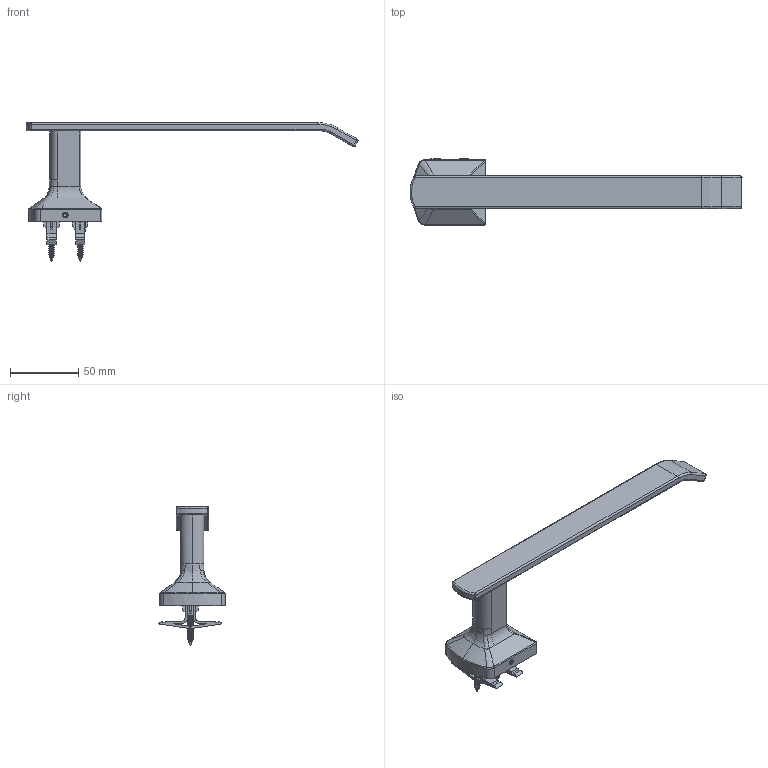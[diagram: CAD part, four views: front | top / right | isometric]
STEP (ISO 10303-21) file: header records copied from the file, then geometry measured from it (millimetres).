
FILE_DESCRIPTION (( 'STEP AP214' ), '1' );
FILE_NAME ('493TR.STEP', '2025-01-02T02:37:07', ( '' ), ( '' ), 'SwSTEP 2.0', 'SolidWorks 2023', '' );
FILE_SCHEMA (( 'AUTOMOTIVE_DESIGN' ));
Products named in the file (1): 493TR
Bounding box: 243.82 x 48.57 x 102.05 mm (x, y, z)
Surface area: 33627.6 mm2 (no closed solid volume)
Topology: 0 solids, 12 shells, 471 faces, 1441 edges, 962 vertices
Faces by surface type: cylinder 149, plane 138, bspline 135, sphere 26, cone 17, torus 6
Entity records: 34719 total; most frequent: CARTESIAN_POINT 23320, ORIENTED_EDGE 2573, DIRECTION 1825, EDGE_CURVE 1441, VERTEX_POINT 962, LINE 663, VECTOR 663, AXIS2_PLACEMENT_3D 581
